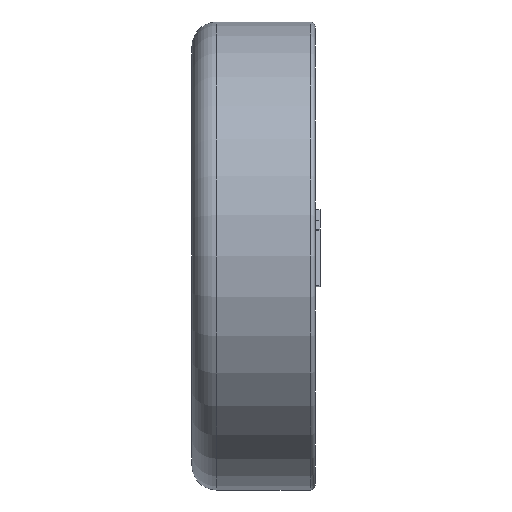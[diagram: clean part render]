
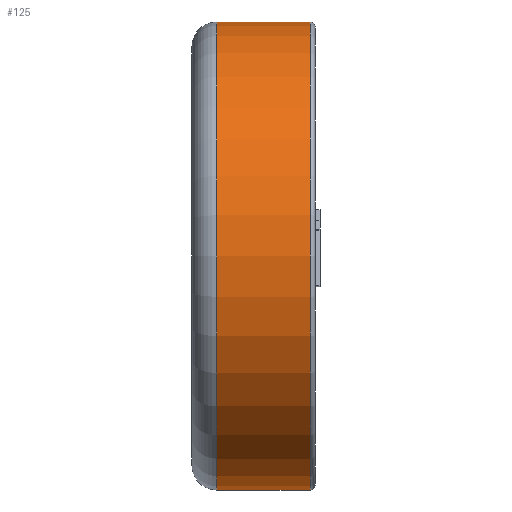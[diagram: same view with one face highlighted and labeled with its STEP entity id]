
A CAD part, left-side view. The second image highlights one B-rep face of the part: STEP entity #125.
In plain terms, the highlighted cylindrical face has radius 4.75 mm (diameter 9.5 mm), a partial arc.
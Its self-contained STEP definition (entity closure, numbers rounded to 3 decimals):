
#125 = ADVANCED_FACE ( 'NONE', ( #5320 ), #845, .T. ) ;
#258 = CIRCLE ( 'NONE', #2482, 4.75 ) ;
#282 = LINE ( 'NONE', #5011, #5478 ) ;
#541 = DIRECTION ( 'NONE',  ( 0., -1., 0. ) ) ;
#845 = CYLINDRICAL_SURFACE ( 'NONE', #2160, 4.75 ) ;
#956 = DIRECTION ( 'NONE',  ( 0., 1., 0. ) ) ;
#1570 = EDGE_CURVE ( 'NONE', #5649, #5764, #258, .T. ) ;
#1906 = VERTEX_POINT ( 'NONE', #2256 ) ;
#2052 = CARTESIAN_POINT ( 'NONE',  ( 0., 2.5, 0. ) ) ;
#2160 = AXIS2_PLACEMENT_3D ( 'NONE', #2052, #541, #5520 ) ;
#2167 = CARTESIAN_POINT ( 'NONE',  ( 0., 0.1, 4.75 ) ) ;
#2256 = CARTESIAN_POINT ( 'NONE',  ( 0., 2., -4.75 ) ) ;
#2482 = AXIS2_PLACEMENT_3D ( 'NONE', #4374, #956, #3337 ) ;
#2789 = AXIS2_PLACEMENT_3D ( 'NONE', #2855, #6361, #3377 ) ;
#2855 = CARTESIAN_POINT ( 'NONE',  ( 0., 2., 0. ) ) ;
#2892 = LINE ( 'NONE', #5452, #5564 ) ;
#2947 = CARTESIAN_POINT ( 'NONE',  ( 0., 2., 4.75 ) ) ;
#3287 = ORIENTED_EDGE ( 'NONE', *, *, #6142, .T. ) ;
#3337 = DIRECTION ( 'NONE',  ( 0., 0., 1. ) ) ;
#3377 = DIRECTION ( 'NONE',  ( 0., 0., 1. ) ) ;
#3500 = EDGE_CURVE ( 'NONE', #3559, #5764, #2892, .T. ) ;
#3559 = VERTEX_POINT ( 'NONE', #2947 ) ;
#3572 = CARTESIAN_POINT ( 'NONE',  ( 0., 0.1, -4.75 ) ) ;
#3637 = ORIENTED_EDGE ( 'NONE', *, *, #3500, .F. ) ;
#4188 = EDGE_CURVE ( 'NONE', #3559, #1906, #4546, .T. ) ;
#4374 = CARTESIAN_POINT ( 'NONE',  ( 0., 0.1, 0. ) ) ;
#4546 = CIRCLE ( 'NONE', #2789, 4.75 ) ;
#4852 = DIRECTION ( 'NONE',  ( 0., -1., 0. ) ) ;
#5011 = CARTESIAN_POINT ( 'NONE',  ( 0., 2.5, -4.75 ) ) ;
#5320 = FACE_OUTER_BOUND ( 'NONE', #5891, .T. ) ;
#5452 = CARTESIAN_POINT ( 'NONE',  ( 0., 2.5, 4.75 ) ) ;
#5460 = ORIENTED_EDGE ( 'NONE', *, *, #4188, .T. ) ;
#5478 = VECTOR ( 'NONE', #6507, 1000. ) ;
#5520 = DIRECTION ( 'NONE',  ( 0., 0., -1. ) ) ;
#5564 = VECTOR ( 'NONE', #4852, 1000. ) ;
#5649 = VERTEX_POINT ( 'NONE', #3572 ) ;
#5694 = ORIENTED_EDGE ( 'NONE', *, *, #1570, .T. ) ;
#5764 = VERTEX_POINT ( 'NONE', #2167 ) ;
#5891 = EDGE_LOOP ( 'NONE', ( #3637, #5460, #3287, #5694 ) ) ;
#6142 = EDGE_CURVE ( 'NONE', #1906, #5649, #282, .T. ) ;
#6361 = DIRECTION ( 'NONE',  ( 0., -1., 0. ) ) ;
#6507 = DIRECTION ( 'NONE',  ( 0., -1., 0. ) ) ;
